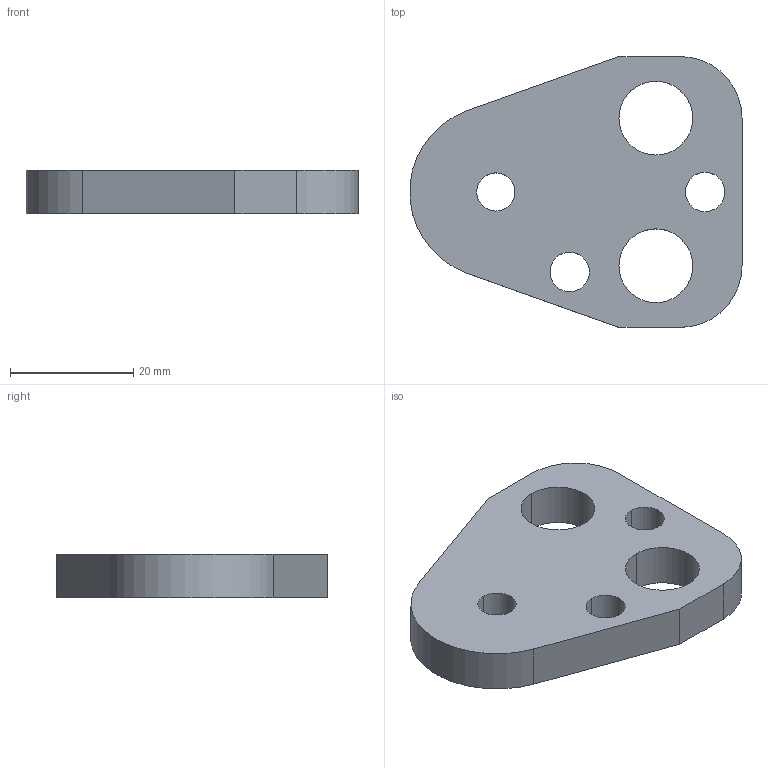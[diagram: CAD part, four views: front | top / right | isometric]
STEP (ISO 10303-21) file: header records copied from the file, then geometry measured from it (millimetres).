
FILE_DESCRIPTION(/* description */ (''),/* implementation_level */ '2;1');
FILE_NAME(/* name */ '3d_bpc16-7_03434_r00.stp',/* time_stamp */ '2011-01-10T14:17:10+09:00',/* author */ ('MISUMI'),/* organization */ (''),/* preprocessor_version */ 'ST-DEVELOPER v11',/* originating_system */ 'UGS - NX 5.0',/* authorisation */ '');
FILE_SCHEMA (('CONFIG_CONTROL_DESIGN'));
Length unit declared in the file: millimetre
Products named in the file (1): 3d_bpc16-7_03434_r00
Bounding box: 53.95 x 44 x 7 mm (x, y, z)
Volume: 10949.9 mm3; surface area: 5210 mm2
Topology: 1 solids, 1 shells, 20 faces, 54 edges, 36 vertices
Faces by surface type: cylinder 13, plane 7
Entity records: 750 total; most frequent: DIRECTION 122, CARTESIAN_POINT 111, ORIENTED_EDGE 108, EDGE_CURVE 54, AXIS2_PLACEMENT_3D 47, VERTEX_POINT 36, EDGE_LOOP 30, LINE 28
